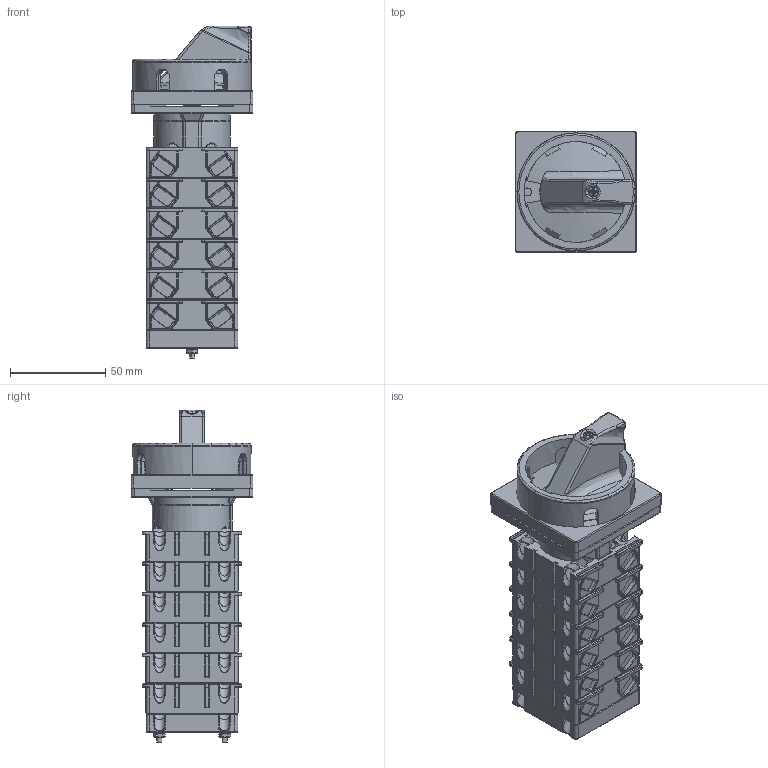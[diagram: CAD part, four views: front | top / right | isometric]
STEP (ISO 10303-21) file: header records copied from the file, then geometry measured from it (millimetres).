
FILE_DESCRIPTION (( 'STEP AP214' ), '1' );
FILE_NAME ('Ïåðåêëþ÷àòåëü 4G16,25-XXXX-U-S6,S25 6ê.STEP', '2022-11-28T12:02:27', ( '' ), ( '' ), 'SwSTEP 2.0', 'SolidWorks 2018', '' );
FILE_SCHEMA (( 'AUTOMOTIVE_DESIGN' ));
Length unit declared in the file: millimetre
Products named in the file (1): Ïåðåêëþ÷àòåëü 4G16,25-XXXX-U-S6,S25 6ê
Bounding box: 64 x 64 x 174.3 mm (x, y, z)
Volume: 303200.4 mm3; surface area: 134013.9 mm2
Topology: 25 solids, 73 shells, 6212 faces, 16351 edges, 10339 vertices
Faces by surface type: plane 3514, cylinder 1939, torus 317, cone 252, bspline 117, sphere 73
Entity records: 271163 total; most frequent: CARTESIAN_POINT 51091, ORIENTED_EDGE 32576, DIRECTION 30655, EDGE_CURVE 16288, VECTOR 11167, LINE 11167, VERTEX_POINT 10327, AXIS2_PLACEMENT_3D 9744
